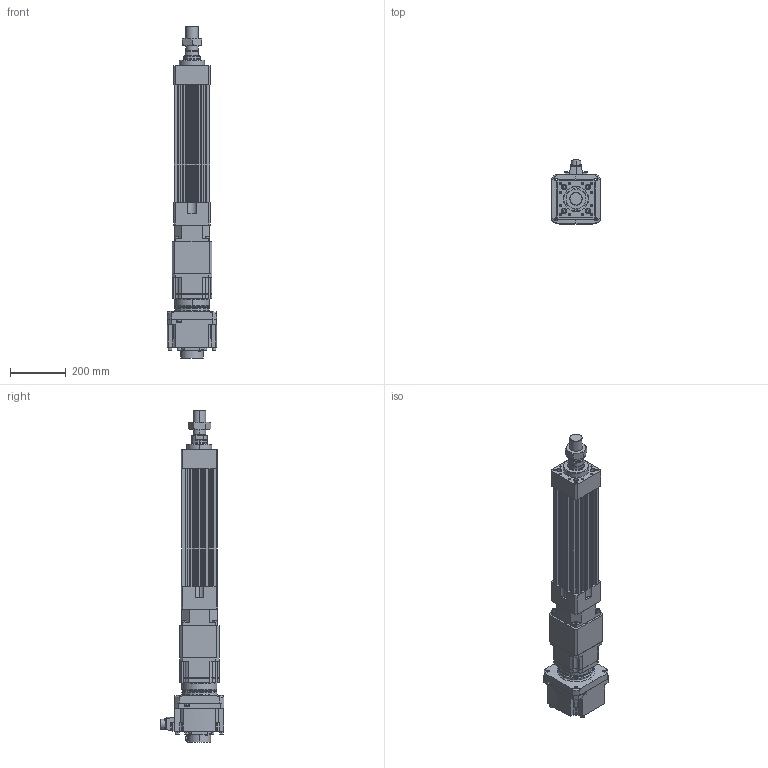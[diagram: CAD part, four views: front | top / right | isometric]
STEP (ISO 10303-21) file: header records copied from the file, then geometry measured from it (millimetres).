
FILE_DESCRIPTION (( 'STEP AP203' ), '1' );
FILE_NAME ('HES130FS(HS)-S200-W020G00-M.STEP', '2023-01-30T11:30:49', ( 'tms' ), ( '' ), 'SwSTEP 2.0', 'SolidWorks 2013', '' );
FILE_SCHEMA (( 'CONFIG_CONTROL_DESIGN' ));
Length unit declared in the file: millimetre
Products named in the file (9): AB1421; HES130 ROD M ST200; P0403500801; HG-SR202; M45X1.5P; P1301500001; AB142-003[HG-SR352]; HES130-S200-G142; HES130FS(HS)-S200-W020G00-M
Assembly tree (8 placements, depth 3):
  HES130FS(HS)-S200-W020G00-M
    HES130-S200-G142
    HES130 ROD M ST200
    M45X1.5P
    AB142-003[HG-SR352]
      AB1421
      P1301500001
      P0403500801
    HG-SR202
Bounding box: 176 x 228.85 x 1187.5 mm (x, y, z)
Volume: 10532397 mm3; surface area: 1315897.9 mm2
Topology: 4 solids, 22 shells, 1527 faces, 3928 edges, 2530 vertices
Faces by surface type: cylinder 683, plane 580, cone 182, bspline 76, torus 6
Entity records: 55214 total; most frequent: CARTESIAN_POINT 16756, DIRECTION 8052, ORIENTED_EDGE 7718, EDGE_CURVE 3881, AXIS2_PLACEMENT_3D 3043, VERTEX_POINT 2530, LINE 1966, VECTOR 1966
